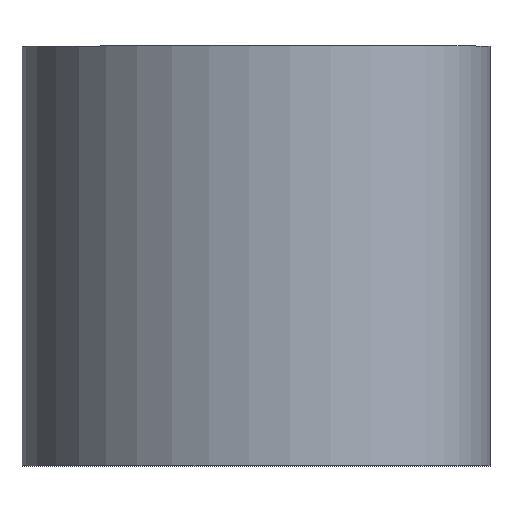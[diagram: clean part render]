
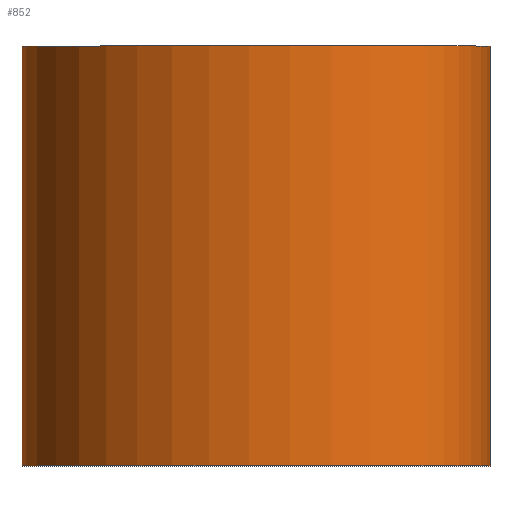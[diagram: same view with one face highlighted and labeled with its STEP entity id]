
A CAD part, top view. The second image highlights one B-rep face of the part: STEP entity #852.
In plain terms, the highlighted free-form (B-spline) face has degree [3, 1] with [10, 2] control points.
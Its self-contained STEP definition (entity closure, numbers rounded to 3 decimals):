
#37=B_SPLINE_SURFACE_WITH_KNOTS('',3,1,((#1465,#1466),(#1467,#1468),(#1469,
#1470),(#1471,#1472),(#1473,#1474),(#1475,#1476),(#1477,#1478),(#1479,#1480),
(#1481,#1482),(#1483,#1484)),.SURF_OF_LINEAR_EXTRUSION.,.F.,.F.,.F.,(4,
1,1,1,1,1,1,4),(2,2),(0.,0.25,0.375,0.5,0.625,0.75,0.875,1.),(0.,1.),
 .UNSPECIFIED.);
#46=B_SPLINE_CURVE_WITH_KNOTS('',3,(#1280,#1281,#1282,#1283,#1284,#1285,
#1286),.UNSPECIFIED.,.F.,.F.,(4,1,1,1,4),(0.,0.264,0.625,
0.811,1.),.UNSPECIFIED.);
#47=B_SPLINE_CURVE_WITH_KNOTS('',3,(#1293,#1294,#1295,#1296,#1297,#1298,
#1299),.UNSPECIFIED.,.F.,.F.,(4,1,1,1,4),(0.,0.264,0.625,
0.811,1.),.UNSPECIFIED.);
#52=B_SPLINE_CURVE_WITH_KNOTS('',3,(#1460,#1461,#1462,#1463),
 .UNSPECIFIED.,.F.,.F.,(4,4),(0.,1.),.UNSPECIFIED.);
#176=ORIENTED_EDGE('',*,*,#354,.T.);
#177=ORIENTED_EDGE('',*,*,#413,.T.);
#178=ORIENTED_EDGE('',*,*,#351,.F.);
#179=ORIENTED_EDGE('',*,*,#398,.F.);
#351=EDGE_CURVE('',#478,#479,#46,.T.);
#354=EDGE_CURVE('',#482,#481,#47,.T.);
#398=EDGE_CURVE('',#482,#478,#588,.T.);
#413=EDGE_CURVE('',#481,#479,#52,.F.);
#478=VERTEX_POINT('',#1279);
#479=VERTEX_POINT('',#1287);
#481=VERTEX_POINT('',#1292);
#482=VERTEX_POINT('',#1300);
#588=LINE('',#1430,#673);
#673=VECTOR('',#1050,1000.);
#730=EDGE_LOOP('',(#176,#177,#178,#179));
#780=FACE_BOUND('',#730,.T.);
#852=ADVANCED_FACE('',(#780),#37,.T.);
#1050=DIRECTION('',(0.,1.,0.));
#1279=CARTESIAN_POINT('',(0.,0.,9.));
#1280=CARTESIAN_POINT('',(0.,0.,9.));
#1281=CARTESIAN_POINT('',(0.046,0.,11.43));
#1282=CARTESIAN_POINT('',(2.451,0.,20.736));
#1283=CARTESIAN_POINT('',(14.348,0.,27.265));
#1284=CARTESIAN_POINT('',(25.436,0.,24.965));
#1285=CARTESIAN_POINT('',(28.636,0.,20.583));
#1286=CARTESIAN_POINT('',(29.,0.,17.));
#1287=CARTESIAN_POINT('',(29.,0.,17.));
#1292=CARTESIAN_POINT('',(29.,-26.,17.));
#1293=CARTESIAN_POINT('',(0.,-26.,9.));
#1294=CARTESIAN_POINT('',(0.046,-26.,11.43));
#1295=CARTESIAN_POINT('',(2.451,-26.,20.736));
#1296=CARTESIAN_POINT('',(14.348,-26.,27.265));
#1297=CARTESIAN_POINT('',(25.436,-26.,24.965));
#1298=CARTESIAN_POINT('',(28.636,-26.,20.583));
#1299=CARTESIAN_POINT('',(29.,-26.,17.));
#1300=CARTESIAN_POINT('',(0.,-26.,9.));
#1430=CARTESIAN_POINT('',(0.,-26.,9.));
#1460=CARTESIAN_POINT('',(29.,0.,17.));
#1461=CARTESIAN_POINT('',(29.,-8.667,17.));
#1462=CARTESIAN_POINT('',(29.,-17.333,17.));
#1463=CARTESIAN_POINT('',(29.,-26.,17.));
#1465=CARTESIAN_POINT('',(0.,-26.,9.));
#1466=CARTESIAN_POINT('',(0.,0.,9.));
#1467=CARTESIAN_POINT('',(0.043,-26.,11.299));
#1468=CARTESIAN_POINT('',(0.043,0.,11.299));
#1469=CARTESIAN_POINT('',(1.401,-26.,16.787));
#1470=CARTESIAN_POINT('',(1.401,0.,16.787));
#1471=CARTESIAN_POINT('',(6.467,-26.,22.302));
#1472=CARTESIAN_POINT('',(6.467,0.,22.302));
#1473=CARTESIAN_POINT('',(11.426,-26.,25.115));
#1474=CARTESIAN_POINT('',(11.426,0.,25.115));
#1475=CARTESIAN_POINT('',(16.989,-26.,26.333));
#1476=CARTESIAN_POINT('',(16.989,0.,26.333));
#1477=CARTESIAN_POINT('',(22.624,-26.,25.617));
#1478=CARTESIAN_POINT('',(22.624,0.,25.617));
#1479=CARTESIAN_POINT('',(27.183,-26.,22.901));
#1480=CARTESIAN_POINT('',(27.183,0.,22.901));
#1481=CARTESIAN_POINT('',(28.759,-26.,19.375));
#1482=CARTESIAN_POINT('',(28.759,0.,19.375));
#1483=CARTESIAN_POINT('',(29.,-26.,17.));
#1484=CARTESIAN_POINT('',(29.,0.,17.));
